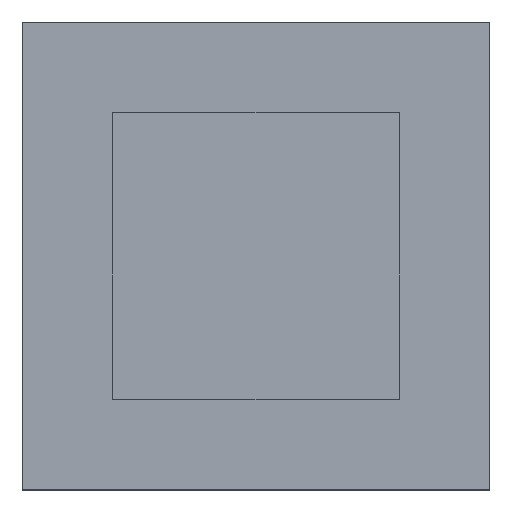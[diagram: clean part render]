
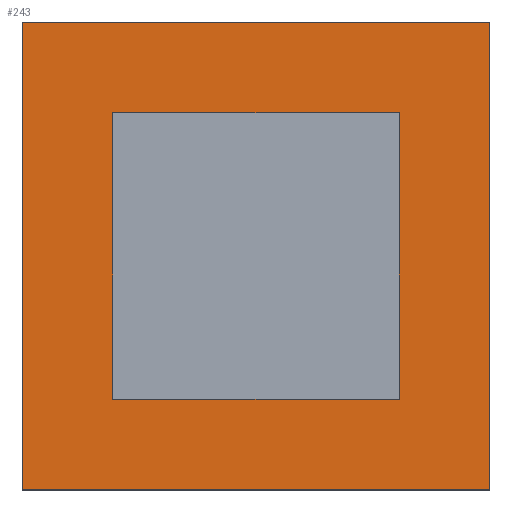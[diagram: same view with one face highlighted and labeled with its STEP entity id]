
A CAD part, top view. The second image highlights one B-rep face of the part: STEP entity #243.
In plain terms, the highlighted planar face has unit normal (0, 0, 1).
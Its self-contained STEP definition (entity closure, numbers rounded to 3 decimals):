
#54 = VERTEX_POINT('',#55);
#55 = CARTESIAN_POINT('',(-11.5,-11.5,25.));
#62 = PLANE('',#63);
#63 = AXIS2_PLACEMENT_3D('',#64,#65,#66);
#64 = CARTESIAN_POINT('',(-11.5,-11.5,22.));
#65 = DIRECTION('',(1.,0.,0.));
#66 = DIRECTION('',(0.,0.,1.));
#74 = PLANE('',#75);
#75 = AXIS2_PLACEMENT_3D('',#76,#77,#78);
#76 = CARTESIAN_POINT('',(-11.5,-11.5,22.));
#77 = DIRECTION('',(0.,1.,0.));
#78 = DIRECTION('',(0.,0.,1.));
#115 = VERTEX_POINT('',#116);
#116 = CARTESIAN_POINT('',(-11.5,11.5,25.));
#130 = PLANE('',#131);
#131 = AXIS2_PLACEMENT_3D('',#132,#133,#134);
#132 = CARTESIAN_POINT('',(-11.5,11.5,22.));
#133 = DIRECTION('',(0.,1.,0.));
#134 = DIRECTION('',(0.,0.,1.));
#142 = EDGE_CURVE('',#54,#115,#143,.T.);
#143 = SURFACE_CURVE('',#144,(#148,#155),.PCURVE_S1.);
#144 = LINE('',#145,#146);
#145 = CARTESIAN_POINT('',(-11.5,-11.5,25.));
#146 = VECTOR('',#147,1.);
#147 = DIRECTION('',(0.,1.,0.));
#148 = PCURVE('',#62,#149);
#149 = DEFINITIONAL_REPRESENTATION('',(#150),#154);
#150 = LINE('',#151,#152);
#151 = CARTESIAN_POINT('',(3.,0.));
#152 = VECTOR('',#153,1.);
#153 = DIRECTION('',(0.,-1.));
#154 = ( GEOMETRIC_REPRESENTATION_CONTEXT(2) 
PARAMETRIC_REPRESENTATION_CONTEXT() REPRESENTATION_CONTEXT('2D SPACE',''
  ) );
#155 = PCURVE('',#156,#161);
#156 = PLANE('',#157);
#157 = AXIS2_PLACEMENT_3D('',#158,#159,#160);
#158 = CARTESIAN_POINT('',(-11.5,-11.5,25.));
#159 = DIRECTION('',(0.,0.,1.));
#160 = DIRECTION('',(1.,0.,0.));
#161 = DEFINITIONAL_REPRESENTATION('',(#162),#166);
#162 = LINE('',#163,#164);
#163 = CARTESIAN_POINT('',(0.,0.));
#164 = VECTOR('',#165,1.);
#165 = DIRECTION('',(0.,1.));
#166 = ( GEOMETRIC_REPRESENTATION_CONTEXT(2) 
PARAMETRIC_REPRESENTATION_CONTEXT() REPRESENTATION_CONTEXT('2D SPACE',''
  ) );
#195 = EDGE_CURVE('',#54,#196,#198,.T.);
#196 = VERTEX_POINT('',#197);
#197 = CARTESIAN_POINT('',(11.5,-11.5,25.));
#198 = SURFACE_CURVE('',#199,(#203,#210),.PCURVE_S1.);
#199 = LINE('',#200,#201);
#200 = CARTESIAN_POINT('',(-11.5,-11.5,25.));
#201 = VECTOR('',#202,1.);
#202 = DIRECTION('',(1.,0.,0.));
#203 = PCURVE('',#74,#204);
#204 = DEFINITIONAL_REPRESENTATION('',(#205),#209);
#205 = LINE('',#206,#207);
#206 = CARTESIAN_POINT('',(3.,0.));
#207 = VECTOR('',#208,1.);
#208 = DIRECTION('',(0.,1.));
#209 = ( GEOMETRIC_REPRESENTATION_CONTEXT(2) 
PARAMETRIC_REPRESENTATION_CONTEXT() REPRESENTATION_CONTEXT('2D SPACE',''
  ) );
#210 = PCURVE('',#156,#211);
#211 = DEFINITIONAL_REPRESENTATION('',(#212),#216);
#212 = LINE('',#213,#214);
#213 = CARTESIAN_POINT('',(0.,0.));
#214 = VECTOR('',#215,1.);
#215 = DIRECTION('',(1.,0.));
#216 = ( GEOMETRIC_REPRESENTATION_CONTEXT(2) 
PARAMETRIC_REPRESENTATION_CONTEXT() REPRESENTATION_CONTEXT('2D SPACE',''
  ) );
#232 = PLANE('',#233);
#233 = AXIS2_PLACEMENT_3D('',#234,#235,#236);
#234 = CARTESIAN_POINT('',(11.5,-11.5,22.));
#235 = DIRECTION('',(1.,0.,0.));
#236 = DIRECTION('',(0.,0.,1.));
#243 = ADVANCED_FACE('',(#244,#292),#156,.T.);
#244 = FACE_BOUND('',#245,.T.);
#245 = EDGE_LOOP('',(#246,#247,#248,#271));
#246 = ORIENTED_EDGE('',*,*,#142,.F.);
#247 = ORIENTED_EDGE('',*,*,#195,.T.);
#248 = ORIENTED_EDGE('',*,*,#249,.T.);
#249 = EDGE_CURVE('',#196,#250,#252,.T.);
#250 = VERTEX_POINT('',#251);
#251 = CARTESIAN_POINT('',(11.5,11.5,25.));
#252 = SURFACE_CURVE('',#253,(#257,#264),.PCURVE_S1.);
#253 = LINE('',#254,#255);
#254 = CARTESIAN_POINT('',(11.5,-11.5,25.));
#255 = VECTOR('',#256,1.);
#256 = DIRECTION('',(0.,1.,0.));
#257 = PCURVE('',#156,#258);
#258 = DEFINITIONAL_REPRESENTATION('',(#259),#263);
#259 = LINE('',#260,#261);
#260 = CARTESIAN_POINT('',(23.,0.));
#261 = VECTOR('',#262,1.);
#262 = DIRECTION('',(0.,1.));
#263 = ( GEOMETRIC_REPRESENTATION_CONTEXT(2) 
PARAMETRIC_REPRESENTATION_CONTEXT() REPRESENTATION_CONTEXT('2D SPACE',''
  ) );
#264 = PCURVE('',#232,#265);
#265 = DEFINITIONAL_REPRESENTATION('',(#266),#270);
#266 = LINE('',#267,#268);
#267 = CARTESIAN_POINT('',(3.,0.));
#268 = VECTOR('',#269,1.);
#269 = DIRECTION('',(0.,-1.));
#270 = ( GEOMETRIC_REPRESENTATION_CONTEXT(2) 
PARAMETRIC_REPRESENTATION_CONTEXT() REPRESENTATION_CONTEXT('2D SPACE',''
  ) );
#271 = ORIENTED_EDGE('',*,*,#272,.F.);
#272 = EDGE_CURVE('',#115,#250,#273,.T.);
#273 = SURFACE_CURVE('',#274,(#278,#285),.PCURVE_S1.);
#274 = LINE('',#275,#276);
#275 = CARTESIAN_POINT('',(-11.5,11.5,25.));
#276 = VECTOR('',#277,1.);
#277 = DIRECTION('',(1.,0.,0.));
#278 = PCURVE('',#156,#279);
#279 = DEFINITIONAL_REPRESENTATION('',(#280),#284);
#280 = LINE('',#281,#282);
#281 = CARTESIAN_POINT('',(0.,23.));
#282 = VECTOR('',#283,1.);
#283 = DIRECTION('',(1.,0.));
#284 = ( GEOMETRIC_REPRESENTATION_CONTEXT(2) 
PARAMETRIC_REPRESENTATION_CONTEXT() REPRESENTATION_CONTEXT('2D SPACE',''
  ) );
#285 = PCURVE('',#130,#286);
#286 = DEFINITIONAL_REPRESENTATION('',(#287),#291);
#287 = LINE('',#288,#289);
#288 = CARTESIAN_POINT('',(3.,0.));
#289 = VECTOR('',#290,1.);
#290 = DIRECTION('',(0.,1.));
#291 = ( GEOMETRIC_REPRESENTATION_CONTEXT(2) 
PARAMETRIC_REPRESENTATION_CONTEXT() REPRESENTATION_CONTEXT('2D SPACE',''
  ) );
#292 = FACE_BOUND('',#293,.T.);
#293 = EDGE_LOOP('',(#294,#322,#348,#374));
#294 = ORIENTED_EDGE('',*,*,#295,.T.);
#295 = EDGE_CURVE('',#296,#298,#300,.T.);
#296 = VERTEX_POINT('',#297);
#297 = CARTESIAN_POINT('',(7.05,-7.05,25.));
#298 = VERTEX_POINT('',#299);
#299 = CARTESIAN_POINT('',(-7.05,-7.05,25.));
#300 = SURFACE_CURVE('',#301,(#305,#311),.PCURVE_S1.);
#301 = LINE('',#302,#303);
#302 = CARTESIAN_POINT('',(-9.275,-7.05,25.));
#303 = VECTOR('',#304,1.);
#304 = DIRECTION('',(-1.,0.,0.));
#305 = PCURVE('',#156,#306);
#306 = DEFINITIONAL_REPRESENTATION('',(#307),#310);
#307 = B_SPLINE_CURVE_WITH_KNOTS('',1,(#308,#309),.UNSPECIFIED.,.F.,.F.,
  (2,2),(-16.325,-2.225),.PIECEWISE_BEZIER_KNOTS.);
#308 = CARTESIAN_POINT('',(18.55,4.45));
#309 = CARTESIAN_POINT('',(4.45,4.45));
#310 = ( GEOMETRIC_REPRESENTATION_CONTEXT(2) 
PARAMETRIC_REPRESENTATION_CONTEXT() REPRESENTATION_CONTEXT('2D SPACE',''
  ) );
#311 = PCURVE('',#312,#317);
#312 = PLANE('',#313);
#313 = AXIS2_PLACEMENT_3D('',#314,#315,#316);
#314 = CARTESIAN_POINT('',(-7.05,-7.05,21.));
#315 = DIRECTION('',(0.,1.,0.));
#316 = DIRECTION('',(0.,0.,1.));
#317 = DEFINITIONAL_REPRESENTATION('',(#318),#321);
#318 = B_SPLINE_CURVE_WITH_KNOTS('',1,(#319,#320),.UNSPECIFIED.,.F.,.F.,
  (2,2),(-16.325,-2.225),.PIECEWISE_BEZIER_KNOTS.);
#319 = CARTESIAN_POINT('',(4.,14.1));
#320 = CARTESIAN_POINT('',(4.,0.));
#321 = ( GEOMETRIC_REPRESENTATION_CONTEXT(2) 
PARAMETRIC_REPRESENTATION_CONTEXT() REPRESENTATION_CONTEXT('2D SPACE',''
  ) );
#322 = ORIENTED_EDGE('',*,*,#323,.T.);
#323 = EDGE_CURVE('',#298,#324,#326,.T.);
#324 = VERTEX_POINT('',#325);
#325 = CARTESIAN_POINT('',(-7.05,7.05,25.));
#326 = SURFACE_CURVE('',#327,(#331,#337),.PCURVE_S1.);
#327 = LINE('',#328,#329);
#328 = CARTESIAN_POINT('',(-7.05,-9.275,25.));
#329 = VECTOR('',#330,1.);
#330 = DIRECTION('',(0.,1.,0.));
#331 = PCURVE('',#156,#332);
#332 = DEFINITIONAL_REPRESENTATION('',(#333),#336);
#333 = B_SPLINE_CURVE_WITH_KNOTS('',1,(#334,#335),.UNSPECIFIED.,.F.,.F.,
  (2,2),(2.225,16.325),.PIECEWISE_BEZIER_KNOTS.);
#334 = CARTESIAN_POINT('',(4.45,4.45));
#335 = CARTESIAN_POINT('',(4.45,18.55));
#336 = ( GEOMETRIC_REPRESENTATION_CONTEXT(2) 
PARAMETRIC_REPRESENTATION_CONTEXT() REPRESENTATION_CONTEXT('2D SPACE',''
  ) );
#337 = PCURVE('',#338,#343);
#338 = PLANE('',#339);
#339 = AXIS2_PLACEMENT_3D('',#340,#341,#342);
#340 = CARTESIAN_POINT('',(-7.05,-7.05,21.));
#341 = DIRECTION('',(1.,0.,0.));
#342 = DIRECTION('',(0.,0.,1.));
#343 = DEFINITIONAL_REPRESENTATION('',(#344),#347);
#344 = B_SPLINE_CURVE_WITH_KNOTS('',1,(#345,#346),.UNSPECIFIED.,.F.,.F.,
  (2,2),(2.225,16.325),.PIECEWISE_BEZIER_KNOTS.);
#345 = CARTESIAN_POINT('',(4.,0.));
#346 = CARTESIAN_POINT('',(4.,-14.1));
#347 = ( GEOMETRIC_REPRESENTATION_CONTEXT(2) 
PARAMETRIC_REPRESENTATION_CONTEXT() REPRESENTATION_CONTEXT('2D SPACE',''
  ) );
#348 = ORIENTED_EDGE('',*,*,#349,.F.);
#349 = EDGE_CURVE('',#350,#324,#352,.T.);
#350 = VERTEX_POINT('',#351);
#351 = CARTESIAN_POINT('',(7.05,7.05,25.));
#352 = SURFACE_CURVE('',#353,(#357,#363),.PCURVE_S1.);
#353 = LINE('',#354,#355);
#354 = CARTESIAN_POINT('',(-9.275,7.05,25.));
#355 = VECTOR('',#356,1.);
#356 = DIRECTION('',(-1.,0.,0.));
#357 = PCURVE('',#156,#358);
#358 = DEFINITIONAL_REPRESENTATION('',(#359),#362);
#359 = B_SPLINE_CURVE_WITH_KNOTS('',1,(#360,#361),.UNSPECIFIED.,.F.,.F.,
  (2,2),(-16.325,-2.225),.PIECEWISE_BEZIER_KNOTS.);
#360 = CARTESIAN_POINT('',(18.55,18.55));
#361 = CARTESIAN_POINT('',(4.45,18.55));
#362 = ( GEOMETRIC_REPRESENTATION_CONTEXT(2) 
PARAMETRIC_REPRESENTATION_CONTEXT() REPRESENTATION_CONTEXT('2D SPACE',''
  ) );
#363 = PCURVE('',#364,#369);
#364 = PLANE('',#365);
#365 = AXIS2_PLACEMENT_3D('',#366,#367,#368);
#366 = CARTESIAN_POINT('',(-7.05,7.05,21.));
#367 = DIRECTION('',(0.,1.,0.));
#368 = DIRECTION('',(0.,0.,1.));
#369 = DEFINITIONAL_REPRESENTATION('',(#370),#373);
#370 = B_SPLINE_CURVE_WITH_KNOTS('',1,(#371,#372),.UNSPECIFIED.,.F.,.F.,
  (2,2),(-16.325,-2.225),.PIECEWISE_BEZIER_KNOTS.);
#371 = CARTESIAN_POINT('',(4.,14.1));
#372 = CARTESIAN_POINT('',(4.,0.));
#373 = ( GEOMETRIC_REPRESENTATION_CONTEXT(2) 
PARAMETRIC_REPRESENTATION_CONTEXT() REPRESENTATION_CONTEXT('2D SPACE',''
  ) );
#374 = ORIENTED_EDGE('',*,*,#375,.F.);
#375 = EDGE_CURVE('',#296,#350,#376,.T.);
#376 = SURFACE_CURVE('',#377,(#381,#387),.PCURVE_S1.);
#377 = LINE('',#378,#379);
#378 = CARTESIAN_POINT('',(7.05,-9.275,25.));
#379 = VECTOR('',#380,1.);
#380 = DIRECTION('',(0.,1.,0.));
#381 = PCURVE('',#156,#382);
#382 = DEFINITIONAL_REPRESENTATION('',(#383),#386);
#383 = B_SPLINE_CURVE_WITH_KNOTS('',1,(#384,#385),.UNSPECIFIED.,.F.,.F.,
  (2,2),(2.225,16.325),.PIECEWISE_BEZIER_KNOTS.);
#384 = CARTESIAN_POINT('',(18.55,4.45));
#385 = CARTESIAN_POINT('',(18.55,18.55));
#386 = ( GEOMETRIC_REPRESENTATION_CONTEXT(2) 
PARAMETRIC_REPRESENTATION_CONTEXT() REPRESENTATION_CONTEXT('2D SPACE',''
  ) );
#387 = PCURVE('',#388,#393);
#388 = PLANE('',#389);
#389 = AXIS2_PLACEMENT_3D('',#390,#391,#392);
#390 = CARTESIAN_POINT('',(7.05,-7.05,21.));
#391 = DIRECTION('',(1.,0.,0.));
#392 = DIRECTION('',(0.,0.,1.));
#393 = DEFINITIONAL_REPRESENTATION('',(#394),#397);
#394 = B_SPLINE_CURVE_WITH_KNOTS('',1,(#395,#396),.UNSPECIFIED.,.F.,.F.,
  (2,2),(2.225,16.325),.PIECEWISE_BEZIER_KNOTS.);
#395 = CARTESIAN_POINT('',(4.,0.));
#396 = CARTESIAN_POINT('',(4.,-14.1));
#397 = ( GEOMETRIC_REPRESENTATION_CONTEXT(2) 
PARAMETRIC_REPRESENTATION_CONTEXT() REPRESENTATION_CONTEXT('2D SPACE',''
  ) );
